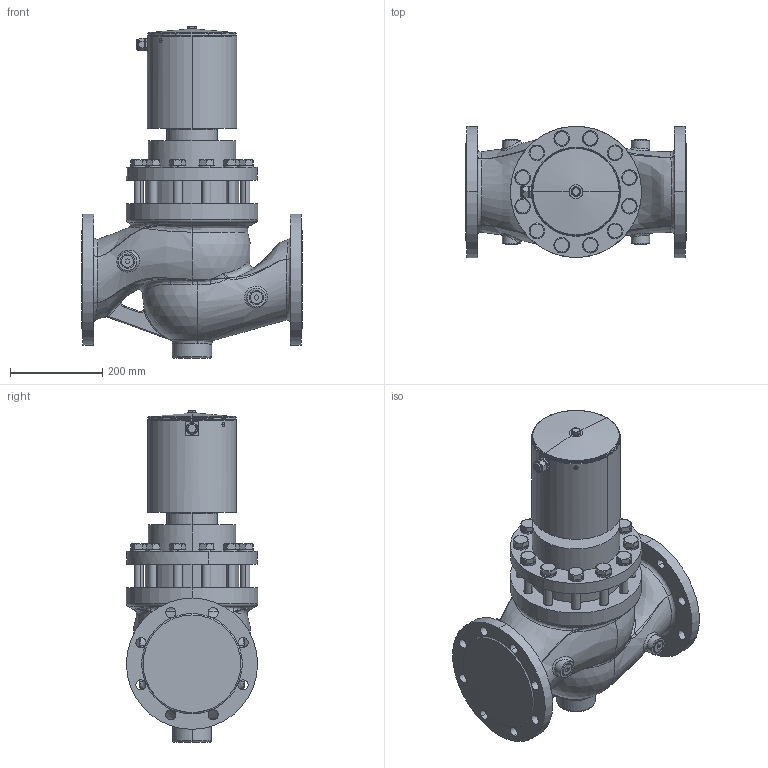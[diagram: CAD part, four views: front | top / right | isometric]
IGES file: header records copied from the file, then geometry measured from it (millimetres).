
Global section: file name: No Iges File Name specified; native system: AutoDesk Inventor R12.0; preprocessor: AutoDesk Inventor Iges Exporter R12.0; date: 20100519.091524; units: millimetre
Bounding box: 480 x 285 x 721.4 mm (x, y, z)
Volume: 33191217.1 mm3; surface area: 1144513.6 mm2
Topology: 1 solids, 1 shells, 687 faces, 1706 edges, 1055 vertices
Faces by surface type: plane 259, bspline 150, cylinder 134, cone 92, revolution 36, torus 14, sphere 2
